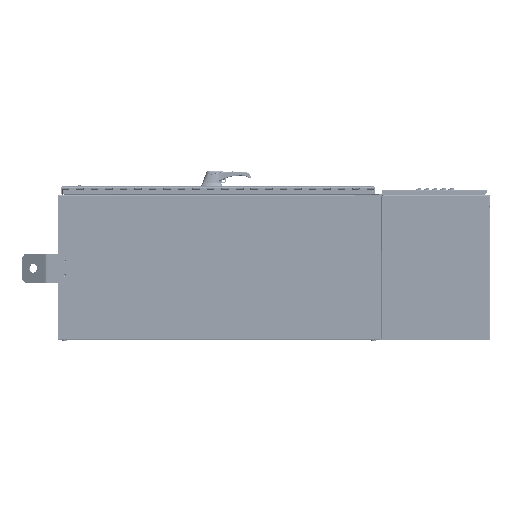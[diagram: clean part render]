
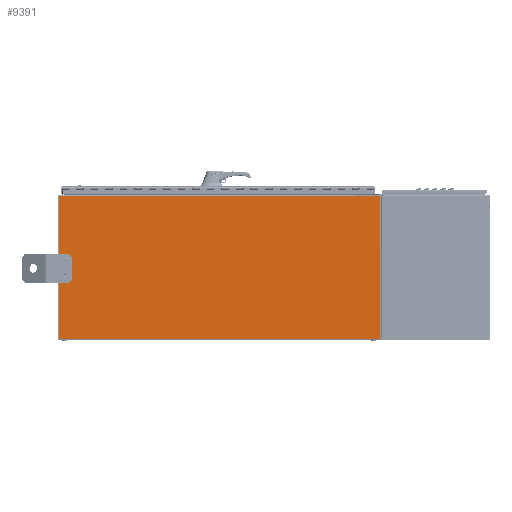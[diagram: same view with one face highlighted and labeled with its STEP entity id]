
A CAD part, left-side view. The second image highlights one B-rep face of the part: STEP entity #9391.
In plain terms, the highlighted planar face has unit normal (-1, 0, 0).
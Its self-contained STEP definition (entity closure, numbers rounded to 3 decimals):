
#1530 = AXIS2_PLACEMENT_3D ( 'NONE', #44865, #44866, #44867 ) ;
#1540 = AXIS2_PLACEMENT_3D ( 'NONE', #44862, #44863, #44864 ) ;
#6978 = EDGE_CURVE ( 'NONE', #221846, #221843, #185232, .T. ) ;
#7022 = EDGE_CURVE ( 'NONE', #221871, #221867, #185255, .T. ) ;
#7028 = EDGE_CURVE ( 'NONE', #221876, #221871, #185251, .T. ) ;
#7033 = EDGE_CURVE ( 'NONE', #221867, #221861, #185273, .T. ) ;
#7039 = EDGE_CURVE ( 'NONE', #221846, #221861, #185317, .T. ) ;
#7043 = EDGE_CURVE ( 'NONE', #221336, #221332, #185361, .T. ) ;
#7047 = EDGE_CURVE ( 'NONE', #221368, #221364, #185369, .T. ) ;
#7053 = EDGE_CURVE ( 'NONE', #221843, #221876, #185365, .T. ) ;
#9391 = ADVANCED_FACE ( 'NONE', ( #73504, #73510, #73512 ), #91856, .F. ) ;
#44814 = CARTESIAN_POINT ( 'NONE',  ( -15., -18.5, 19.875 ) ) ;
#44833 = DIRECTION ( 'NONE',  ( 0., 0., 1. ) ) ;
#44848 = CARTESIAN_POINT ( 'NONE',  ( -15., 22.125, 0.165 ) ) ;
#44854 = CARTESIAN_POINT ( 'NONE',  ( -15., -22.125, 19.875 ) ) ;
#44855 = DIRECTION ( 'NONE',  ( 0., 1., 0. ) ) ;
#44856 = CARTESIAN_POINT ( 'NONE',  ( -15., 22.125, 0.125 ) ) ;
#44857 = DIRECTION ( 'NONE',  ( 0., 0., -1. ) ) ;
#44858 = CARTESIAN_POINT ( 'NONE',  ( -15., -18.5, 19.835 ) ) ;
#44859 = DIRECTION ( 'NONE',  ( 0., 0., 1. ) ) ;
#44860 = CARTESIAN_POINT ( 'NONE',  ( -15., 22.125, 19.875 ) ) ;
#44861 = DIRECTION ( 'NONE',  ( 0., 1., 0. ) ) ;
#44862 = CARTESIAN_POINT ( 'NONE',  ( -15., 21.25, 10.938 ) ) ;
#44863 = DIRECTION ( 'NONE',  ( -1., 0., 0. ) ) ;
#44864 = DIRECTION ( 'NONE',  ( 0., 0., 1. ) ) ;
#44865 = CARTESIAN_POINT ( 'NONE',  ( -15., 21.25, 8.937 ) ) ;
#44866 = DIRECTION ( 'NONE',  ( -1., 0., 0. ) ) ;
#44867 = DIRECTION ( 'NONE',  ( 0., 0., 1. ) ) ;
#44869 = DIRECTION ( 'NONE',  ( 0., -1., 0. ) ) ;
#53855 = AXIS2_PLACEMENT_3D ( 'NONE', #91855, #91857, #91858 ) ;
#73504 = FACE_BOUND ( 'NONE', #201675, .T. ) ;
#73510 = FACE_BOUND ( 'NONE', #201688, .T. ) ;
#73512 = FACE_OUTER_BOUND ( 'NONE', #201690, .T. ) ;
#89806 = AXIS2_PLACEMENT_3D ( 'NONE', #116651, #116665, #116670 ) ;
#89807 = AXIS2_PLACEMENT_3D ( 'NONE', #116673, #116683, #116685 ) ;
#91855 = CARTESIAN_POINT ( 'NONE',  ( -15., 22.125, 19.875 ) ) ;
#91856 = PLANE ( 'NONE',  #53855 ) ;
#91857 = DIRECTION ( 'NONE',  ( 1., 0., 0. ) ) ;
#91858 = DIRECTION ( 'NONE',  ( 0., 0., -1. ) ) ;
#110774 = CIRCLE ( 'NONE', #89806, 0.266 ) ;
#110779 = CIRCLE ( 'NONE', #89807, 0.266 ) ;
#116651 = CARTESIAN_POINT ( 'NONE',  ( -15., 21.25, 8.937 ) ) ;
#116665 = DIRECTION ( 'NONE',  ( -1., 0., 0. ) ) ;
#116670 = DIRECTION ( 'NONE',  ( 0., 0., 1. ) ) ;
#116673 = CARTESIAN_POINT ( 'NONE',  ( -15., 21.25, 10.938 ) ) ;
#116683 = DIRECTION ( 'NONE',  ( -1., 0., 0. ) ) ;
#116685 = DIRECTION ( 'NONE',  ( 0., 0., 1. ) ) ;
#185188 = VECTOR ( 'NONE', #44833, 39.37 ) ;
#185232 = LINE ( 'NONE', #44814, #185188 ) ;
#185251 = LINE ( 'NONE', #44854, #185321 ) ;
#185255 = LINE ( 'NONE', #44848, #185313 ) ;
#185273 = LINE ( 'NONE', #44856, #185329 ) ;
#185313 = VECTOR ( 'NONE', #44855, 39.37 ) ;
#185317 = LINE ( 'NONE', #44858, #185339 ) ;
#185321 = VECTOR ( 'NONE', #44857, 39.37 ) ;
#185329 = VECTOR ( 'NONE', #44859, 39.37 ) ;
#185339 = VECTOR ( 'NONE', #44861, 39.37 ) ;
#185347 = VECTOR ( 'NONE', #44869, 39.37 ) ;
#185361 = CIRCLE ( 'NONE', #1540, 0.266 ) ;
#185365 = LINE ( 'NONE', #44860, #185347 ) ;
#185369 = CIRCLE ( 'NONE', #1530, 0.266 ) ;
#201675 = EDGE_LOOP ( 'NONE', ( #231839, #231841 ) ) ;
#201688 = EDGE_LOOP ( 'NONE', ( #231843, #231845 ) ) ;
#201690 = EDGE_LOOP ( 'NONE', ( #231847, #231849, #231850, #231853, #231855, #231857 ) ) ;
#211052 = EDGE_CURVE ( 'NONE', #221364, #221368, #110774, .T. ) ;
#211058 = EDGE_CURVE ( 'NONE', #221332, #221336, #110779, .T. ) ;
#214722 = CARTESIAN_POINT ( 'NONE',  ( -15., 21.25, 10.672 ) ) ;
#214729 = CARTESIAN_POINT ( 'NONE',  ( -15., 21.25, 11.203 ) ) ;
#214775 = CARTESIAN_POINT ( 'NONE',  ( -15., 21.25, 8.672 ) ) ;
#214781 = CARTESIAN_POINT ( 'NONE',  ( -15., 21.25, 9.203 ) ) ;
#215578 = CARTESIAN_POINT ( 'NONE',  ( -15., 22.125, 0.165 ) ) ;
#215586 = CARTESIAN_POINT ( 'NONE',  ( -15., -18.5, 19.875 ) ) ;
#215592 = CARTESIAN_POINT ( 'NONE',  ( -15., -18.5, 19.835 ) ) ;
#215615 = CARTESIAN_POINT ( 'NONE',  ( -15., 22.125, 19.835 ) ) ;
#215633 = CARTESIAN_POINT ( 'NONE',  ( -15., -22.125, 0.165 ) ) ;
#215639 = CARTESIAN_POINT ( 'NONE',  ( -15., -22.125, 19.875 ) ) ;
#221332 = VERTEX_POINT ( 'NONE', #214722 ) ;
#221336 = VERTEX_POINT ( 'NONE', #214729 ) ;
#221364 = VERTEX_POINT ( 'NONE', #214775 ) ;
#221368 = VERTEX_POINT ( 'NONE', #214781 ) ;
#221843 = VERTEX_POINT ( 'NONE', #215586 ) ;
#221846 = VERTEX_POINT ( 'NONE', #215592 ) ;
#221861 = VERTEX_POINT ( 'NONE', #215615 ) ;
#221867 = VERTEX_POINT ( 'NONE', #215578 ) ;
#221871 = VERTEX_POINT ( 'NONE', #215633 ) ;
#221876 = VERTEX_POINT ( 'NONE', #215639 ) ;
#231839 = ORIENTED_EDGE ( 'NONE', *, *, #7043, .F. ) ;
#231841 = ORIENTED_EDGE ( 'NONE', *, *, #211058, .F. ) ;
#231843 = ORIENTED_EDGE ( 'NONE', *, *, #7047, .F. ) ;
#231845 = ORIENTED_EDGE ( 'NONE', *, *, #211052, .F. ) ;
#231847 = ORIENTED_EDGE ( 'NONE', *, *, #6978, .F. ) ;
#231849 = ORIENTED_EDGE ( 'NONE', *, *, #7039, .T. ) ;
#231850 = ORIENTED_EDGE ( 'NONE', *, *, #7033, .F. ) ;
#231853 = ORIENTED_EDGE ( 'NONE', *, *, #7022, .F. ) ;
#231855 = ORIENTED_EDGE ( 'NONE', *, *, #7028, .F. ) ;
#231857 = ORIENTED_EDGE ( 'NONE', *, *, #7053, .F. ) ;
